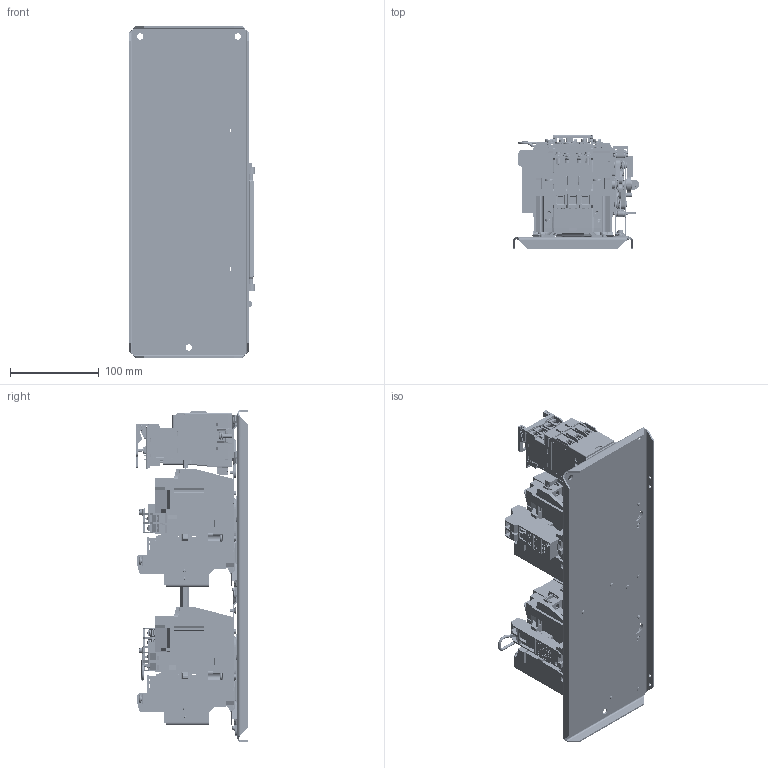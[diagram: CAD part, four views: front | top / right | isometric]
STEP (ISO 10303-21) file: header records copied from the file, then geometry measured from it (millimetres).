
FILE_DESCRIPTION((''),'2;1');
FILE_NAME('10007244057_ASM','2023-07-05T08:16:18',('LEQuenti'),('Rockwell Automation'),'CREO PARAMETRIC BY PTC INC, 2020281','CREO PARAMETRIC BY PTC INC, 2020281','');
FILE_SCHEMA(('CONFIG_CONTROL_DESIGN'));
Length unit declared in the file: inch
Products named in the file (173): 40414-303; 40410-031; 40185-049; 28020-652; 10000062510; 10000062511; 10000062512; 10000062513; 10000062514; 10000062515; 10000062516; 10000082141; 40793-X225492; 40410-300; 40412-454_ASM; 40495-40495003; CD-40495-300; CD-40495-304; 40495-40495310; X-379256; 40495-40495458_ASM; 28169-100-26; 40010-183; 10000082151_ASM; 40751-057; 40751-061; 40755-035; 40751-067; 40751-068; 10002334711; 10002334712; 10002334713_ASM; 10002128076; 10002334714; 10002334715_ASM; 10002334716_ASM; 40751-064_AF1; 40751-374-MOLDING; 40751-374-52_ASM; 10002334729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
Assembly tree (395 placements, depth 9):
  10007244057_ASM
    40414-303
    10002336328_ASM
      10000082151_ASM
        40410-031
        40185-049
        28020-652  x2
        40412-454_ASM
          10000062510
          10000062511
          10000062512
          10000062513
          10000062514
          10000062515  x3
          10000062516  x3
          10000082141
          40793-X225492  x6
          40410-300
        40495-40495458_ASM
          40495-40495003
          CD-40495-300
          CD-40495-304
          40495-40495310
          X-379256  x2
        28169-100-26  x3
        40010-183
      10002336327_ASM
        10002334743_ASM
          10002334742_ASM
            40751-057
            40751-061
            40755-035  x3
            40751-067  x3
            40751-068  x3
            10002334716_ASM  x3
              10002334713_ASM
                10002334711
                10002334712
              10002128076
              10002334715_ASM
                10002334714  x10
            40751-374-52_ASM
              40751-064_AF1
              40751-374-MOLDING
            10002334729
            10002334728
            40751-94801301  x4
            10002332710
            10003213953_ASM
              10003213677
              10003213676
              10003213675
              10003213674
              10003213673
              10003213672
              10003213671
              10003213954
            10003323581
            10003323580
          10002128135_ASM
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Bounding box: 141.94 x 127.05 x 373.08 mm (x, y, z)
Volume: 1505004.8 mm3; surface area: 903929.5 mm2
Topology: 459 solids, 467 shells, 40130 faces, 108563 edges, 70563 vertices
Faces by surface type: plane 30209, cylinder 6356, cone 1127, bspline 843, extrusion 836, torus 446, sphere 293, revolution 20
Entity records: 826739 total; most frequent: CARTESIAN_POINT 220718, ORIENTED_EDGE 130927, DIRECTION 114766, EDGE_CURVE 65495, VECTOR 54608, LINE 54148, VERTEX_POINT 42594, AXIS2_PLACEMENT_3D 30076
